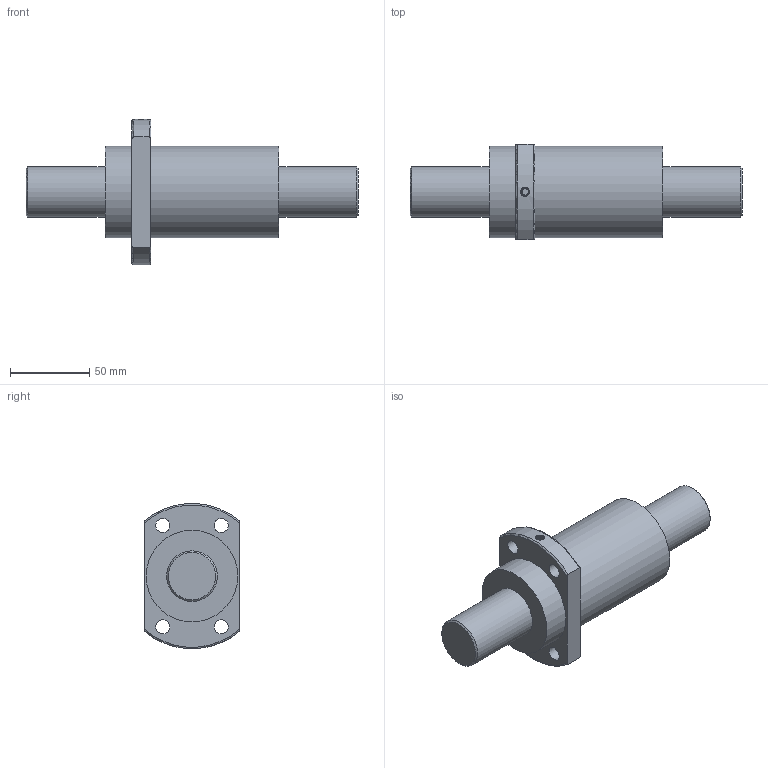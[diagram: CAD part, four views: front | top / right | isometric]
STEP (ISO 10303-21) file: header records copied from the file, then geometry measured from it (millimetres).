
FILE_DESCRIPTION (( 'STEP AP203' ), '1' );
FILE_NAME ('SFY03232-5.6.STEP', '2023-08-16T02:30:02', ( '' ), ( '' ), 'SwSTEP 2.0', 'SolidWorks 2022', '' );
FILE_SCHEMA (( 'CONFIG_CONTROL_DESIGN' ));
Length unit declared in the file: millimetre
Products named in the file (1): SFY03232-5.6
Bounding box: 210 x 60 x 91.86 mm (x, y, z)
Volume: 396887.2 mm3; surface area: 42444.8 mm2
Topology: 1 solids, 1 shells, 31 faces, 75 edges, 52 vertices
Faces by surface type: cylinder 13, plane 10, torus 4, bspline 2, cone 2
Full cylindrical faces by diameter (mm): 4 x1, 9 x4, 32 x2, 58 x2
Entity records: 2975 total; most frequent: CARTESIAN_POINT 2262, DIRECTION 128, ORIENTED_EDGE 112, AXIS2_PLACEMENT_3D 60, EDGE_LOOP 56, EDGE_CURVE 56, VERTEX_POINT 44, FACE_OUTER_BOUND 40
